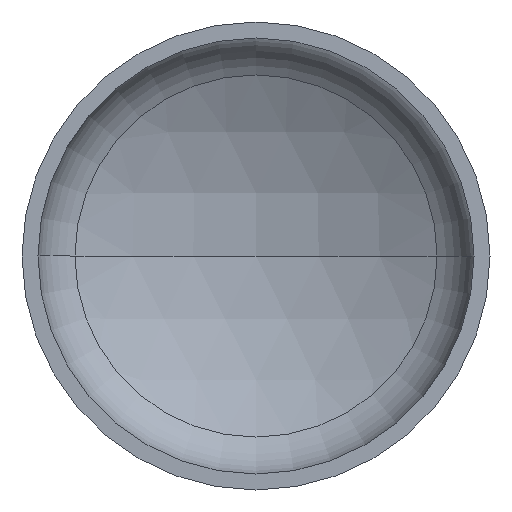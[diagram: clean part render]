
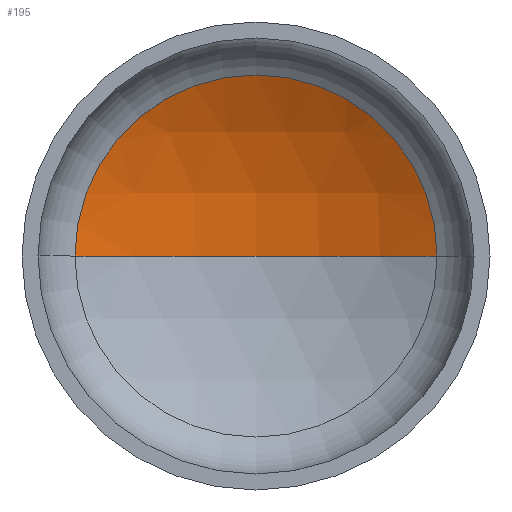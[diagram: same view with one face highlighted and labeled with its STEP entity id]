
A CAD part, front view. The second image highlights one B-rep face of the part: STEP entity #195.
In plain terms, the highlighted spherical face has radius 1360 mm.
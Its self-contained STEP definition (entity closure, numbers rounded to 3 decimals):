
#10 = AXIS2_PLACEMENT_3D ( 'NONE', #378, #245, #400 ) ;
#11 = AXIS2_PLACEMENT_3D ( 'NONE', #174, #334, #205 ) ;
#19 = AXIS2_PLACEMENT_3D ( 'NONE', #200, #361, #224 ) ;
#27 = VERTEX_POINT ( 'NONE', #197 ) ;
#35 = AXIS2_PLACEMENT_3D ( 'NONE', #180, #91, #175 ) ;
#44 = ORIENTED_EDGE ( 'NONE', *, *, #350, .F. ) ;
#74 = CARTESIAN_POINT ( 'NONE',  ( -657.745, 347.57, 0. ) ) ;
#91 = DIRECTION ( 'NONE',  ( 0., 0., -1. ) ) ;
#96 = SPHERICAL_SURFACE ( 'NONE', #35, 1360. ) ;
#103 = EDGE_LOOP ( 'NONE', ( #44, #148, #133 ) ) ;
#132 = VERTEX_POINT ( 'NONE', #74 ) ;
#133 = ORIENTED_EDGE ( 'NONE', *, *, #362, .T. ) ;
#148 = ORIENTED_EDGE ( 'NONE', *, *, #366, .T. ) ;
#174 = CARTESIAN_POINT ( 'NONE',  ( 0., 347.57, 0. ) ) ;
#175 = DIRECTION ( 'NONE',  ( -1., 0., 0. ) ) ;
#180 = CARTESIAN_POINT ( 'NONE',  ( 0., -842.796, 0. ) ) ;
#195 = ADVANCED_FACE ( 'NONE', ( #256 ), #96, .F. ) ;
#197 = CARTESIAN_POINT ( 'NONE',  ( 0., 517.204, 0. ) ) ;
#200 = CARTESIAN_POINT ( 'NONE',  ( 0., -842.796, 0. ) ) ;
#205 = DIRECTION ( 'NONE',  ( 1., 0., 0. ) ) ;
#224 = DIRECTION ( 'NONE',  ( 1., 0., 0. ) ) ;
#245 = DIRECTION ( 'NONE',  ( 0., 0., -1. ) ) ;
#256 = FACE_OUTER_BOUND ( 'NONE', #103, .T. ) ;
#279 = CIRCLE ( 'NONE', #11, 657.745 ) ;
#334 = DIRECTION ( 'NONE',  ( 0., -1., 0. ) ) ;
#350 = EDGE_CURVE ( 'NONE', #27, #132, #357, .T. ) ;
#357 = CIRCLE ( 'NONE', #19, 1360. ) ;
#361 = DIRECTION ( 'NONE',  ( 0., 0., 1. ) ) ;
#362 = EDGE_CURVE ( 'NONE', #410, #132, #279, .T. ) ;
#366 = EDGE_CURVE ( 'NONE', #27, #410, #401, .T. ) ;
#378 = CARTESIAN_POINT ( 'NONE',  ( 0., -842.796, 0. ) ) ;
#381 = CARTESIAN_POINT ( 'NONE',  ( 657.745, 347.57, 0. ) ) ;
#400 = DIRECTION ( 'NONE',  ( -1., 0., 0. ) ) ;
#401 = CIRCLE ( 'NONE', #10, 1360. ) ;
#410 = VERTEX_POINT ( 'NONE', #381 ) ;
